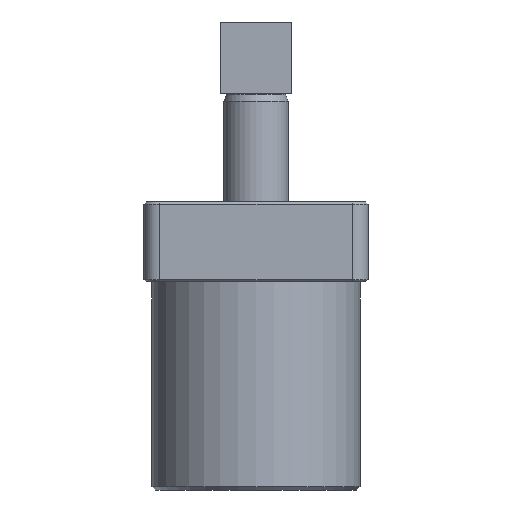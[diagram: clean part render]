
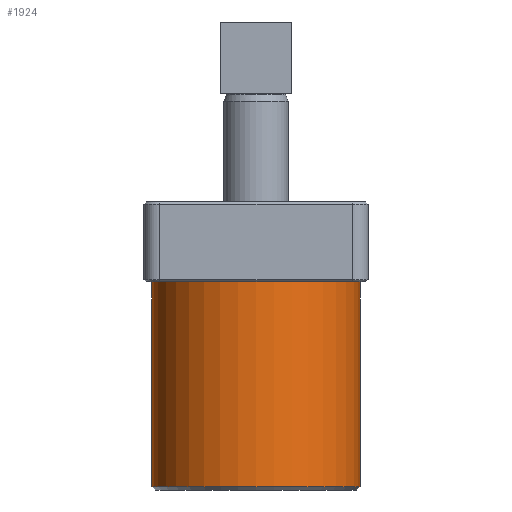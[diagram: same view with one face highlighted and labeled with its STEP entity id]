
A CAD part, left-side view. The second image highlights one B-rep face of the part: STEP entity #1924.
In plain terms, the highlighted cylindrical face has radius 32.5 mm (diameter 65 mm), a full revolution.
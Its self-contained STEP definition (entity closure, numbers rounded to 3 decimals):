
#234=CYLINDRICAL_SURFACE('',#2066,32.5);
#327=ORIENTED_EDGE('',*,*,#704,.T.);
#328=ORIENTED_EDGE('',*,*,#705,.F.);
#704=EDGE_CURVE('',#895,#895,#1028,.T.);
#705=EDGE_CURVE('',#896,#896,#1029,.T.);
#895=VERTEX_POINT('',#2760);
#896=VERTEX_POINT('',#2763);
#1028=CIRCLE('',#2065,32.5);
#1029=CIRCLE('',#2067,32.5);
#1128=EDGE_LOOP('',(#327));
#1129=EDGE_LOOP('',(#328));
#1306=FACE_BOUND('',#1128,.T.);
#1307=FACE_BOUND('',#1129,.T.);
#1924=ADVANCED_FACE('',(#1306,#1307),#234,.T.);
#2065=AXIS2_PLACEMENT_3D('',#2759,#2282,#2283);
#2066=AXIS2_PLACEMENT_3D('',#2761,#2284,#2285);
#2067=AXIS2_PLACEMENT_3D('',#2762,#2286,#2287);
#2282=DIRECTION('',(0.,0.,1.));
#2283=DIRECTION('',(1.,0.,0.));
#2284=DIRECTION('',(0.,0.,1.));
#2285=DIRECTION('',(0.,-1.,0.));
#2286=DIRECTION('',(0.,0.,1.));
#2287=DIRECTION('',(0.,-1.,0.));
#2759=CARTESIAN_POINT('',(0.,36.5,-72.1));
#2760=CARTESIAN_POINT('',(32.5,36.5,-72.1));
#2761=CARTESIAN_POINT('',(0.,36.5,-73.1));
#2762=CARTESIAN_POINT('',(0.,36.5,-8.1));
#2763=CARTESIAN_POINT('',(0.,4.,-8.1));
